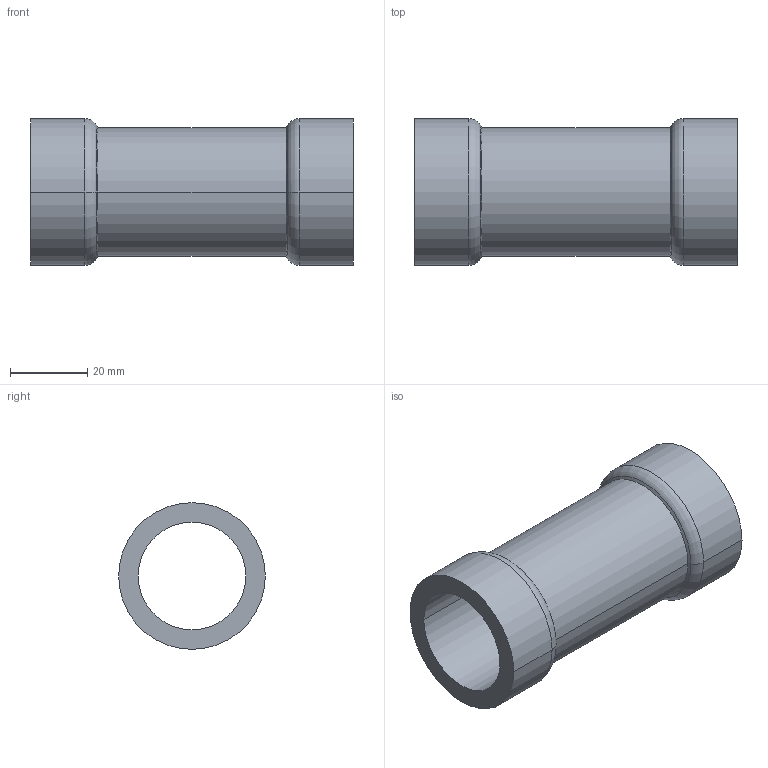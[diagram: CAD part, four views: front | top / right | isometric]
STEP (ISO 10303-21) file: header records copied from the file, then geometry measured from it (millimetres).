
FILE_DESCRIPTION(('Creo Elements/Direct Modeling STEP Export'),'2;1');
FILE_NAME('C9403_3-4.stp','2020-06-18T13:28:29',(''),(''),'PTC Creo Elements/Direct Modeling STEP processor for AP214 (Solid Model)','PTC Creo Elements/Direct Modeling 19.0C 15-Aug-2015 (C) Parametric Technology GmbH','');
FILE_SCHEMA(('AUTOMOTIVE_DESIGN { 1 0 10303 214 1 1 1 1 }'));
Length unit declared in the file: millimetre
Products named in the file (1): 9403_3-4
Bounding box: 83.4 x 37.9 x 37.9 mm (x, y, z)
Volume: 29935.2 mm3; surface area: 17726.5 mm2
Topology: 1 solids, 1 shells, 18 faces, 36 edges, 20 vertices
Faces by surface type: cylinder 8, cone 4, torus 4, plane 2
Entity records: 444 total; most frequent: DIRECTION 78, ORIENTED_EDGE 72, CARTESIAN_POINT 65, EDGE_CURVE 36, AXIS2_PLACEMENT_3D 33, VERTEX_POINT 20, EDGE_LOOP 20, FACE_OUTER_BOUND 18
